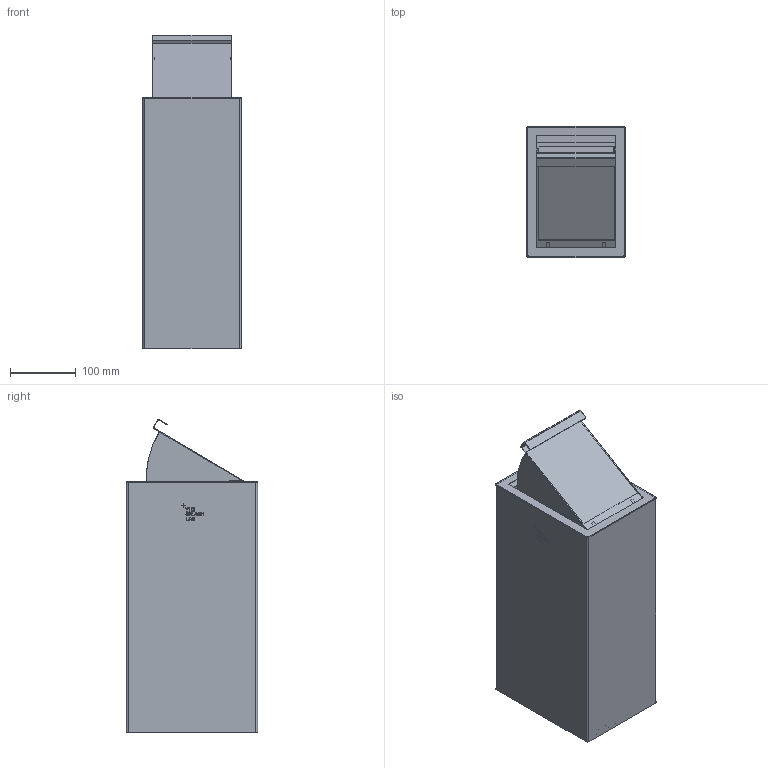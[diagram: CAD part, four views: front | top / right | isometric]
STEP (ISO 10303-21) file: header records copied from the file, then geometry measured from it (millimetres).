
FILE_DESCRIPTION(/* description */ (''),/* implementation_level */ '2;1');
FILE_NAME(/* name */ 'C:/Users/sasi_/OneDrive/Documents/TSL Files/TSL.522.step',/* time_stamp */ '2021-08-17T10:50:00+01:00',/* author */ (''),/* organization */ (''),/* preprocessor_version */ 'ST-DEVELOPER v18.1',/* originating_system */ 'Autodesk Translation Framework v10.9.0.1377',/* authorisation */ '');
FILE_SCHEMA (('AUTOMOTIVE_DESIGN { 1 0 10303 214 3 1 1 }'));
Length unit declared in the file: millimetre
Products named in the file (7): TSL.522; TSLA.522.Lid Assembly; TSLP.522.005; TSLP.522.010; TSLP.522.020; TSLP.522.015; TSLP.522.025
Assembly tree (6 placements, depth 3):
  TSL.522
    TSLA.522.Lid Assembly
      TSLP.522.005
      TSLP.522.010
      TSLP.522.020
      TSLP.522.015
    TSLP.522.025
Bounding box: 150 x 200 x 477.67 mm (x, y, z)
Volume: 535118.6 mm3; surface area: 762162.6 mm2
Topology: 6 solids, 6 shells, 447 faces, 1198 edges, 790 vertices
Faces by surface type: cylinder 218, plane 209, sphere 8, torus 6, bspline 4, cone 2
Full cylindrical faces by diameter (mm): 2.355 x1, 2.356 x1, 2.5 x2, 2.927 x6, 3 x1, 3.5 x4
Entity records: 16329 total; most frequent: CARTESIAN_POINT 4647, DIRECTION 2434, ORIENTED_EDGE 2396, EDGE_CURVE 1198, AXIS2_PLACEMENT_3D 851, VERTEX_POINT 790, LINE 732, VECTOR 732
